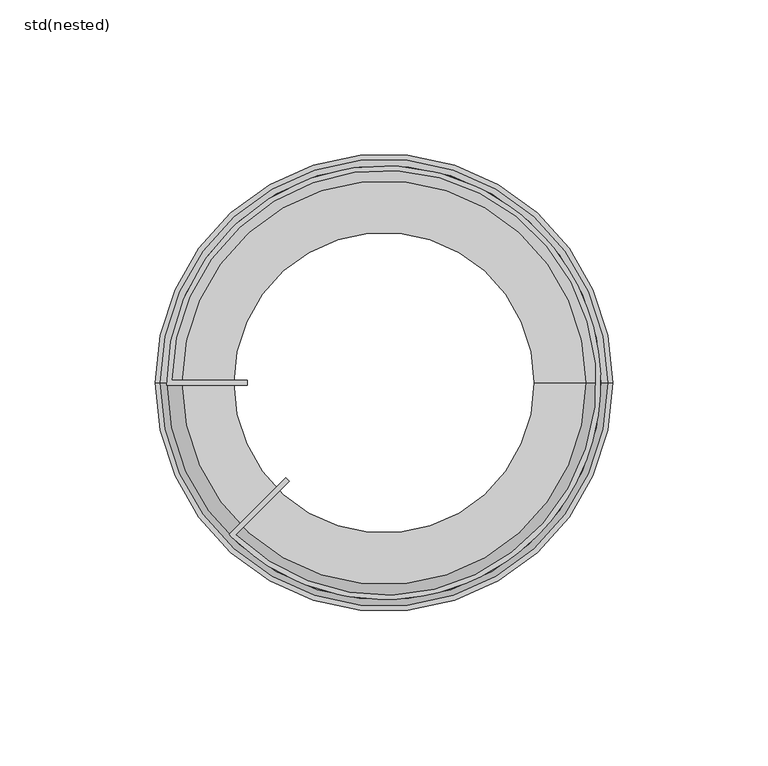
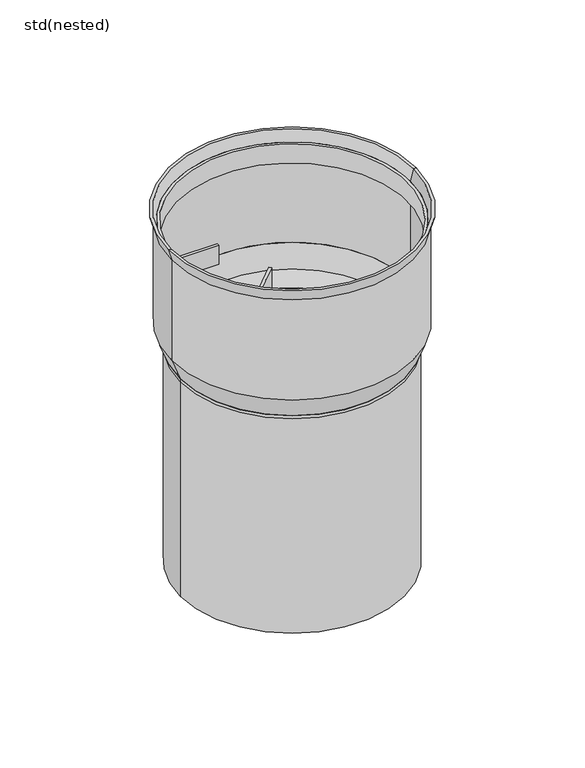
"""IFC4 building model written with IfcOpenShell, lengths in millimetres: sanitary terminal geometry, ZZZ_do not use_PF_ST_UN_balcony gully_ACO : std(nested)."""

from ifc_helpers import new_model, si_unit, point, frame, origin, origin_2d, place, context, project, spatial, polyline, circle_curve, trimmed, segment, composite_curve, outline, extrude, source, transform, mapped, element, save
from ifc_brep_helpers import plane_surface, cylinder_surface, revolved_surface, advanced_brep


def std_nested_67d32c1a(model_context):
    return source(origin(), model_context, "Body", "SolidModel", [
        extrude(outline(composite_curve([segment(trimmed(circle_curve(origin_2d(), 70.0), [point((-69.9954284, -0.8))], [point((-50.0599275, -48.9285567))], False, "CARTESIAN"), True, "CONTINUOUS"), segment(polyline([(-50.0599275, -48.9285567), (-31.6783838, -30.5470129), (-30.5470129, -31.6783838), (-47.7971102, -48.928481)]), True, "CONTINUOUS"), segment(trimmed(circle_curve(origin_2d(), 68.4), [point((-47.7971102, -48.928481))], [point((-68.3953215, 0.8))], True, "CARTESIAN"), True, "CONTINUOUS"), segment(polyline([(-68.3953215, 0.8), (-44.0, 0.8), (-44.0, -0.8), (-69.9954284, -0.8)]), True, "CONTINUOUS")], self_intersect=False)), frame((0.0, 0.0, -19.0), z_axis=(0.0, 0.0, 1.0), x_axis=(1.0, 0.0, 0.0)), (0.0, 0.0, 1.0), 12.0),
        advanced_brep(
        [(50.0, 0.0, -85.2358828), (-50.0, 0.0, -85.2358828), (-66.5, 0.0, -85.2358828), (66.5, 0.0, -85.2358828), (50.0, 0.0, -218.0), (-50.0, 0.0, -218.0), (48.444252, 0.0, -218.0), (-48.444252, 0.0, -218.0), (48.444252, 0.0, -83.5), (-48.444252, 0.0, -83.5), (66.5, 0.0, -83.5), (-66.5, 0.0, -83.5)],
        [
            (0, 1, circle_curve(frame((0.0, 0.0, -85.2358828), z_axis=(0.0, 0.0, 1.0), x_axis=(-1.0, 0.0, 0.0)), 50.0)),
            (1, 2),
            (2, 3, circle_curve(frame((0.0, 0.0, -85.2358828), z_axis=(0.0, 0.0, -1.0), x_axis=(-1.0, 0.0, 0.0)), 66.5)),
            (3, 0),
            (1, 0, circle_curve(frame((0.0, 0.0, -85.2358828), z_axis=(0.0, 0.0, 1.0), x_axis=(-1.0, 0.0, 0.0)), 50.0)),
            (3, 2, circle_curve(frame((0.0, 0.0, -85.2358828), z_axis=(0.0, 0.0, -1.0), x_axis=(-1.0, 0.0, 0.0)), 66.5)),
            (4, 5, circle_curve(frame((0.0, 0.0, -218.0), z_axis=(0.0, 0.0, 1.0), x_axis=(-1.0, 0.0, 0.0)), 50.0)),
            (5, 1),
            (0, 4),
            (5, 4, circle_curve(frame((0.0, 0.0, -218.0), z_axis=(0.0, 0.0, 1.0), x_axis=(-1.0, 0.0, 0.0)), 50.0)),
            (6, 7, circle_curve(frame((0.0, 0.0, -218.0), z_axis=(0.0, 0.0, 1.0), x_axis=(-1.0, 0.0, 0.0)), 48.444252)),
            (7, 5),
            (4, 6),
            (7, 6, circle_curve(frame((0.0, 0.0, -218.0), z_axis=(0.0, 0.0, 1.0), x_axis=(-1.0, 0.0, 0.0)), 48.444252)),
            (8, 9, circle_curve(frame((0.0, 0.0, -83.5), z_axis=(0.0, 0.0, 1.0), x_axis=(-1.0, 0.0, 0.0)), 48.444252)),
            (9, 7),
            (6, 8),
            (9, 8, circle_curve(frame((0.0, 0.0, -83.5), z_axis=(0.0, 0.0, 1.0), x_axis=(-1.0, 0.0, 0.0)), 48.444252)),
            (10, 11, circle_curve(frame((0.0, 0.0, -83.5), z_axis=(0.0, 0.0, 1.0), x_axis=(-1.0, 0.0, 0.0)), 66.5)),
            (11, 9),
            (8, 10),
            (11, 10, circle_curve(frame((0.0, 0.0, -83.5), z_axis=(0.0, 0.0, 1.0), x_axis=(-1.0, 0.0, 0.0)), 66.5)),
            (2, 11),
            (10, 3),
        ],
        [
            plane_surface(frame((0.0, 0.0, -85.2358828), z_axis=(0.0, 0.0, -1.0), x_axis=(-1.0, 0.0, 0.0))),
            cylinder_surface(frame((0.0, 0.0, 0.0), z_axis=(0.0, 0.0, -1.0), x_axis=(-1.0, 0.0, 0.0)), 50.0),
            plane_surface(frame((0.0, 0.0, -218.0), z_axis=(0.0, 0.0, -1.0), x_axis=(-1.0, 0.0, 0.0))),
            revolved_surface(polyline([(-48.444252, 0.0, -218.0), (-48.444252, 0.0, -83.5)]), (0.0, 0.0, 0.0), (0.0, 0.0, -1.0)),
            plane_surface(frame((0.0, 0.0, -83.5), z_axis=(0.0, 0.0, 1.0), x_axis=(-1.0, 0.0, 0.0))),
            cylinder_surface(frame((0.0, 0.0, 0.0), z_axis=(0.0, 0.0, -1.0), x_axis=(-1.0, 0.0, 0.0)), 66.5),
        ],
        [
            (0, [[1, 2, 3, 4]]),
            (0, [[5, -4, 6, -2]]),
            (1, [[7, 8, -1, 9]]),
            (1, [[10, -9, -5, -8]]),
            (2, [[11, 12, -7, 13]]),
            (2, [[14, -13, -10, -12]]),
            (3, [[15, 16, -11, 17]]),
            (3, [[18, -17, -14, -16]]),
            (4, [[19, 20, -15, 21]]),
            (4, [[22, -21, -18, -20]]),
            (5, [[-3, 23, -19, 24]]),
            (5, [[-6, -24, -22, -23]]),
        ],
    ),
        advanced_brep(
        [(71.6480246, 0.0, -7.0), (-71.6480246, 0.0, -7.0), (-73.6480246, 0.0, 0.0), (73.6480246, 0.0, 0.0), (71.6480246, 0.0, -70.0), (-71.6480246, 0.0, -70.0), (66.5, 0.0, -83.5), (-66.5, 0.0, -83.5), (66.5, 0.0, -220.0), (-66.5, 0.0, -220.0), (64.8519754, 0.0, -220.0), (-64.8519754, 0.0, -220.0), (64.8519754, 0.0, -83.5), (-64.8519754, 0.0, -83.5), (70.0, 0.0, -70.0), (-70.0, 0.0, -70.0), (70.0, 0.0, -7.0), (-70.0, 0.0, -7.0), (72.0, 0.0, 0.0), (-72.0, 0.0, 0.0)],
        [
            (0, 1, circle_curve(frame((0.0, 0.0, -7.0), z_axis=(0.0, 0.0, 1.0), x_axis=(-1.0, 0.0, 0.0)), 71.6480246)),
            (1, 2),
            (2, 3, circle_curve(frame((0.0, 0.0, 0.0), z_axis=(0.0, 0.0, -1.0), x_axis=(-1.0, 0.0, 0.0)), 73.6480246)),
            (3, 0),
            (1, 0, circle_curve(frame((0.0, 0.0, -7.0), z_axis=(0.0, 0.0, 1.0), x_axis=(-1.0, 0.0, 0.0)), 71.6480246)),
            (3, 2, circle_curve(frame((0.0, 0.0, 0.0), z_axis=(0.0, 0.0, -1.0), x_axis=(-1.0, 0.0, 0.0)), 73.6480246)),
            (4, 5, circle_curve(frame((0.0, 0.0, -70.0), z_axis=(0.0, 0.0, 1.0), x_axis=(-1.0, 0.0, 0.0)), 71.6480246)),
            (5, 1),
            (0, 4),
            (5, 4, circle_curve(frame((0.0, 0.0, -70.0), z_axis=(0.0, 0.0, 1.0), x_axis=(-1.0, 0.0, 0.0)), 71.6480246)),
            (6, 7, circle_curve(frame((0.0, 0.0, -83.5), z_axis=(0.0, 0.0, 1.0), x_axis=(-1.0, 0.0, 0.0)), 66.5)),
            (7, 5),
            (4, 6),
            (7, 6, circle_curve(frame((0.0, 0.0, -83.5), z_axis=(0.0, 0.0, 1.0), x_axis=(-1.0, 0.0, 0.0)), 66.5)),
            (8, 9, circle_curve(frame((0.0, 0.0, -220.0), z_axis=(0.0, 0.0, 1.0), x_axis=(-1.0, 0.0, 0.0)), 66.5)),
            (9, 7),
            (6, 8),
            (9, 8, circle_curve(frame((0.0, 0.0, -220.0), z_axis=(0.0, 0.0, 1.0), x_axis=(-1.0, 0.0, 0.0)), 66.5)),
            (10, 11, circle_curve(frame((0.0, 0.0, -220.0), z_axis=(0.0, 0.0, 1.0), x_axis=(-1.0, 0.0, 0.0)), 64.8519754)),
            (11, 9),
            (8, 10),
            (11, 10, circle_curve(frame((0.0, 0.0, -220.0), z_axis=(0.0, 0.0, 1.0), x_axis=(-1.0, 0.0, 0.0)), 64.8519754)),
            (12, 13, circle_curve(frame((0.0, 0.0, -83.5), z_axis=(0.0, 0.0, 1.0), x_axis=(-1.0, 0.0, 0.0)), 64.8519754)),
            (13, 11),
            (10, 12),
            (13, 12, circle_curve(frame((0.0, 0.0, -83.5), z_axis=(0.0, 0.0, 1.0), x_axis=(-1.0, 0.0, 0.0)), 64.8519754)),
            (14, 15, circle_curve(frame((0.0, 0.0, -70.0), z_axis=(0.0, 0.0, 1.0), x_axis=(-1.0, 0.0, 0.0)), 70.0)),
            (15, 13),
            (12, 14),
            (15, 14, circle_curve(frame((0.0, 0.0, -70.0), z_axis=(0.0, 0.0, 1.0), x_axis=(-1.0, 0.0, 0.0)), 70.0)),
            (16, 17, circle_curve(frame((0.0, 0.0, -7.0), z_axis=(0.0, 0.0, 1.0), x_axis=(-1.0, 0.0, 0.0)), 70.0)),
            (17, 15),
            (14, 16),
            (17, 16, circle_curve(frame((0.0, 0.0, -7.0), z_axis=(0.0, 0.0, 1.0), x_axis=(-1.0, 0.0, 0.0)), 70.0)),
            (18, 19, circle_curve(frame((0.0, 0.0, 0.0), z_axis=(0.0, 0.0, 1.0), x_axis=(-1.0, 0.0, 0.0)), 72.0)),
            (19, 17),
            (16, 18),
            (19, 18, circle_curve(frame((0.0, 0.0, 0.0), z_axis=(0.0, 0.0, 1.0), x_axis=(-1.0, 0.0, 0.0)), 72.0)),
            (2, 19),
            (18, 3),
        ],
        [
            revolved_surface(polyline([(-73.6480246, 0.0, 0.0), (-71.6480246, 0.0, -7.0)]), (0.0, 0.0, 0.0), (0.0, 0.0, -1.0)),
            cylinder_surface(frame((0.0, 0.0, 0.0), z_axis=(0.0, 0.0, -1.0), x_axis=(-1.0, 0.0, 0.0)), 71.6480246),
            revolved_surface(polyline([(-71.6480246, 0.0, -70.0), (-66.5, 0.0, -83.5)]), (0.0, 0.0, 0.0), (0.0, 0.0, -1.0)),
            cylinder_surface(frame((0.0, 0.0, 0.0), z_axis=(0.0, 0.0, -1.0), x_axis=(-1.0, 0.0, 0.0)), 66.5),
            plane_surface(frame((0.0, 0.0, -220.0), z_axis=(0.0, 0.0, -1.0), x_axis=(-1.0, 0.0, 0.0))),
            revolved_surface(polyline([(-64.8519754, 0.0, -220.0), (-64.8519754, 0.0, -83.5)]), (0.0, 0.0, 0.0), (0.0, 0.0, -1.0)),
            revolved_surface(polyline([(-64.8519754, 0.0, -83.5), (-70.0, 0.0, -70.0)]), (0.0, 0.0, 0.0), (0.0, 0.0, -1.0)),
            revolved_surface(polyline([(-70.0, 0.0, -70.0), (-70.0, 0.0, -7.0)]), (0.0, 0.0, 0.0), (0.0, 0.0, -1.0)),
            revolved_surface(polyline([(-70.0, 0.0, -7.0), (-72.0, 0.0, 0.0)]), (0.0, 0.0, 0.0), (0.0, 0.0, -1.0)),
            plane_surface(frame((0.0, 0.0, 0.0), z_axis=(0.0, 0.0, 1.0), x_axis=(-1.0, 0.0, 0.0))),
        ],
        [
            (0, [[1, 2, 3, 4]]),
            (0, [[5, -4, 6, -2]]),
            (1, [[7, 8, -1, 9]]),
            (1, [[10, -9, -5, -8]]),
            (2, [[11, 12, -7, 13]]),
            (2, [[14, -13, -10, -12]]),
            (3, [[15, 16, -11, 17]]),
            (3, [[18, -17, -14, -16]]),
            (4, [[19, 20, -15, 21]]),
            (4, [[22, -21, -18, -20]]),
            (5, [[23, 24, -19, 25]]),
            (5, [[26, -25, -22, -24]]),
            (6, [[27, 28, -23, 29]]),
            (6, [[30, -29, -26, -28]]),
            (7, [[31, 32, -27, 33]]),
            (7, [[34, -33, -30, -32]]),
            (8, [[35, 36, -31, 37]]),
            (8, [[38, -37, -34, -36]]),
            (9, [[-3, 39, -35, 40]]),
            (9, [[-6, -40, -38, -39]]),
        ],
    ),
    ])


if __name__ == "__main__":
    model = new_model("IFC4")
    model_context = context("Model", 3, world=origin())
    ifc_project = project(units=[si_unit("LENGTHUNIT", "METRE", prefix="MILLI")], contexts=[model_context])
    site = spatial("IfcSite", under=ifc_project)
    building = spatial("IfcBuilding", under=site)
    placement = place(None, origin())
    std_nested_shape = std_nested_67d32c1a(model_context)
    element("IfcSanitaryTerminal", 1, ObjectType="ZZZ_do not use_PF_ST_UN_balcony gully_ACO : std(nested)", at=placement, inside=building, context=model_context, shape_type="MappedRepresentation", body=[
        mapped(std_nested_shape, transform((0.0, 0.0, 0.0), x_axis=(1.0, 0.0, 0.0), y_axis=(0.0, 1.0, 0.0), z_axis=(0.0, 0.0, 1.0))),
    ])
    save(model, "model.ifc")
